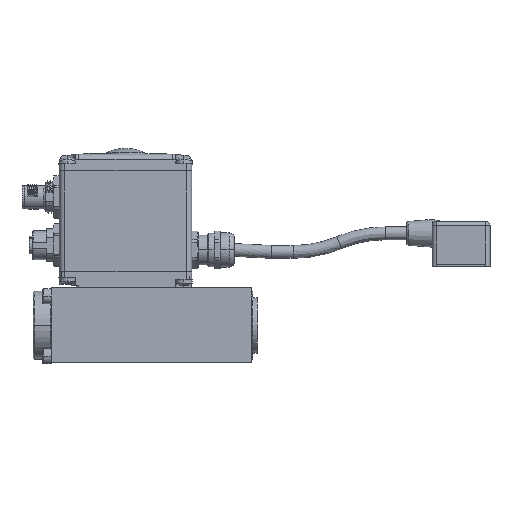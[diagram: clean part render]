
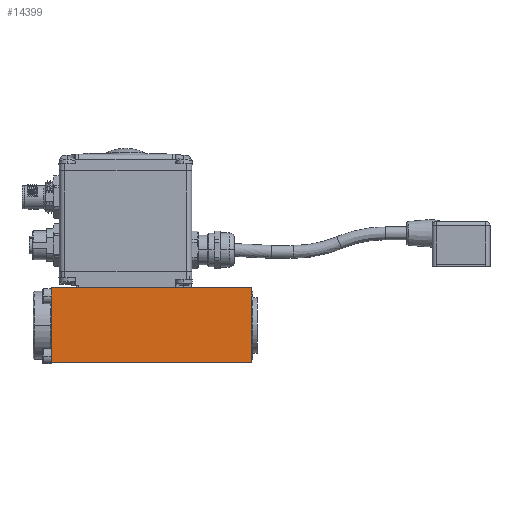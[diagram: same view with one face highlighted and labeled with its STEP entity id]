
A CAD part, top view. The second image highlights one B-rep face of the part: STEP entity #14399.
In plain terms, the highlighted planar face has unit normal (0, 0, 1).
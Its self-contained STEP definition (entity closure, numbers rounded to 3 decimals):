
#14399 = ADVANCED_FACE ( 'NONE', ( #43274 ), #48511, .F. ) ;
#19368 = VERTEX_POINT ( 'NONE', #57521 ) ;
#19370 = VERTEX_POINT ( 'NONE', #57523 ) ;
#19384 = VERTEX_POINT ( 'NONE', #57537 ) ;
#19386 = VERTEX_POINT ( 'NONE', #57539 ) ;
#38991 = ORIENTED_EDGE ( 'NONE', *, *, #85544, .F. ) ;
#38994 = ORIENTED_EDGE ( 'NONE', *, *, #85530, .F. ) ;
#38995 = ORIENTED_EDGE ( 'NONE', *, *, #85541, .F. ) ;
#38996 = ORIENTED_EDGE ( 'NONE', *, *, #85455, .T. ) ;
#43274 = FACE_OUTER_BOUND ( 'NONE', #111604, .T. ) ;
#43285 = AXIS2_PLACEMENT_3D ( 'NONE', #48512, #48513, #48514 ) ;
#48511 = PLANE ( 'NONE',  #43285 ) ;
#48512 = CARTESIAN_POINT ( 'NONE',  ( 102.5, -17.5, 17.5 ) ) ;
#48513 = DIRECTION ( 'NONE',  ( 0., 0., -1. ) ) ;
#48514 = DIRECTION ( 'NONE',  ( 0., 1., 0. ) ) ;
#57521 = CARTESIAN_POINT ( 'NONE',  ( 8.5, 17.5, 17.5 ) ) ;
#57523 = CARTESIAN_POINT ( 'NONE',  ( 102.5, 17.5, 17.5 ) ) ;
#57537 = CARTESIAN_POINT ( 'NONE',  ( 102.5, -17.5, 17.5 ) ) ;
#57539 = CARTESIAN_POINT ( 'NONE',  ( 8.5, -17.5, 17.5 ) ) ;
#70286 = VECTOR ( 'NONE', #73308, 1000. ) ;
#70305 = VECTOR ( 'NONE', #76409, 1000. ) ;
#70308 = VECTOR ( 'NONE', #76427, 1000. ) ;
#70309 = VECTOR ( 'NONE', #76433, 1000. ) ;
#73306 = LINE ( 'NONE', #73307, #70286 ) ;
#73307 = CARTESIAN_POINT ( 'NONE',  ( 102.5, 17.5, 17.5 ) ) ;
#73308 = DIRECTION ( 'NONE',  ( -1., 0., 0. ) ) ;
#76405 = LINE ( 'NONE', #76407, #70305 ) ;
#76407 = CARTESIAN_POINT ( 'NONE',  ( 102.5, -17.5, 17.5 ) ) ;
#76409 = DIRECTION ( 'NONE',  ( 0., -1., 0. ) ) ;
#76423 = LINE ( 'NONE', #76425, #70308 ) ;
#76425 = CARTESIAN_POINT ( 'NONE',  ( 102.5, -17.5, 17.5 ) ) ;
#76427 = DIRECTION ( 'NONE',  ( -1., 0., 0. ) ) ;
#76429 = LINE ( 'NONE', #76431, #70309 ) ;
#76431 = CARTESIAN_POINT ( 'NONE',  ( 8.5, -17.5, 17.5 ) ) ;
#76433 = DIRECTION ( 'NONE',  ( 0., 1., 0. ) ) ;
#85455 = EDGE_CURVE ( 'NONE', #19370, #19368, #73306, .T. ) ;
#85530 = EDGE_CURVE ( 'NONE', #19370, #19384, #76405, .T. ) ;
#85541 = EDGE_CURVE ( 'NONE', #19384, #19386, #76423, .T. ) ;
#85544 = EDGE_CURVE ( 'NONE', #19386, #19368, #76429, .T. ) ;
#111604 = EDGE_LOOP ( 'NONE', ( #38991, #38995, #38994, #38996 ) ) ;
